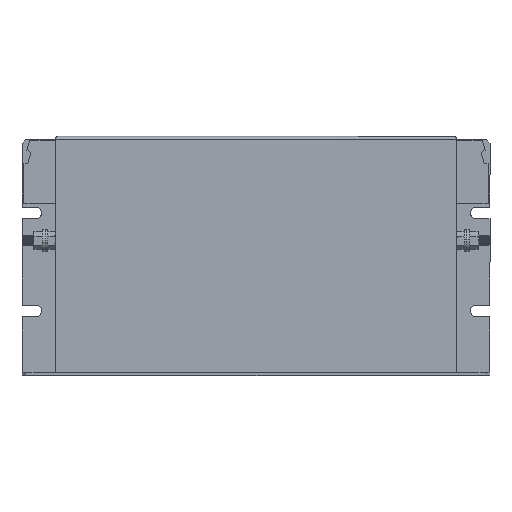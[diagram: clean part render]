
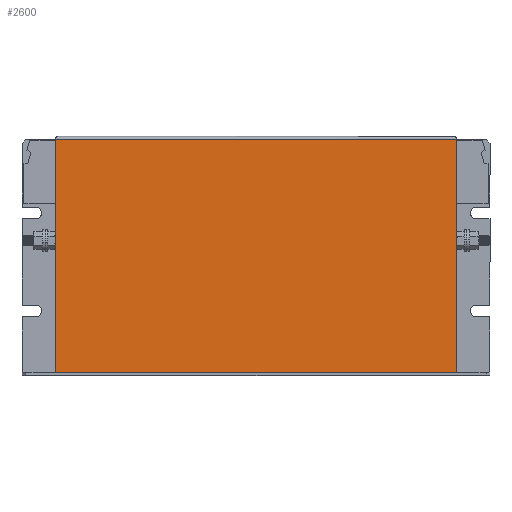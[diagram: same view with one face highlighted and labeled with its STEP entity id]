
A CAD part, top view. The second image highlights one B-rep face of the part: STEP entity #2600.
In plain terms, the highlighted planar face has unit normal (0, 0, 1).
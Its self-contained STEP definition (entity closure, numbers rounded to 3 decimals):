
#2498 = EDGE_LOOP ( 'NONE', ( #3674, #3661, #3684, #3685 ) ) ;
#2600 = ADVANCED_FACE ( 'NONE', ( #6562 ), #6557, .F. ) ;
#3661 = ORIENTED_EDGE ( 'NONE', *, *, #3681, .T. ) ;
#3671 = EDGE_CURVE ( 'NONE', #3675, #4603, #6994, .T. ) ;
#3674 = ORIENTED_EDGE ( 'NONE', *, *, #3671, .F. ) ;
#3675 = VERTEX_POINT ( 'NONE', #7041 ) ;
#3681 = EDGE_CURVE ( 'NONE', #3675, #4683, #7035, .T. ) ;
#3684 = ORIENTED_EDGE ( 'NONE', *, *, #4682, .T. ) ;
#3685 = ORIENTED_EDGE ( 'NONE', *, *, #4585, .T. ) ;
#4585 = EDGE_CURVE ( 'NONE', #4591, #4603, #8536, .T. ) ;
#4591 = VERTEX_POINT ( 'NONE', #8580 ) ;
#4603 = VERTEX_POINT ( 'NONE', #8558 ) ;
#4682 = EDGE_CURVE ( 'NONE', #4683, #4591, #8692, .T. ) ;
#4683 = VERTEX_POINT ( 'NONE', #8688 ) ;
#6552 = DIRECTION ( 'NONE',  ( -1., 0., 0. ) ) ;
#6553 = DIRECTION ( 'NONE',  ( 0., 0., -1. ) ) ;
#6554 = AXIS2_PLACEMENT_3D ( 'NONE', #6556, #6553, #6552 ) ;
#6556 = CARTESIAN_POINT ( 'NONE',  ( 17., 122., 1.5 ) ) ;
#6557 = PLANE ( 'NONE',  #6554 ) ;
#6562 = FACE_OUTER_BOUND ( 'NONE', #2498, .T. ) ;
#6993 = CARTESIAN_POINT ( 'NONE',  ( 222., 122., 1.5 ) ) ;
#6994 = LINE ( 'NONE', #6993, #7043 ) ;
#7027 = DIRECTION ( 'NONE',  ( -1., 0., 0. ) ) ;
#7028 = VECTOR ( 'NONE', #7027, 1000. ) ;
#7029 = CARTESIAN_POINT ( 'NONE',  ( 17., 120.5, 1.5 ) ) ;
#7035 = LINE ( 'NONE', #7029, #7028 ) ;
#7041 = CARTESIAN_POINT ( 'NONE',  ( 222., 120.5, 1.5 ) ) ;
#7042 = DIRECTION ( 'NONE',  ( 0., -1., 0. ) ) ;
#7043 = VECTOR ( 'NONE', #7042, 1000. ) ;
#8533 = DIRECTION ( 'NONE',  ( 1., 0., 0. ) ) ;
#8534 = VECTOR ( 'NONE', #8533, 1000. ) ;
#8535 = CARTESIAN_POINT ( 'NONE',  ( 17., 1.5, 1.5 ) ) ;
#8536 = LINE ( 'NONE', #8535, #8534 ) ;
#8558 = CARTESIAN_POINT ( 'NONE',  ( 222., 1.5, 1.5 ) ) ;
#8580 = CARTESIAN_POINT ( 'NONE',  ( 17., 1.5, 1.5 ) ) ;
#8688 = CARTESIAN_POINT ( 'NONE',  ( 17., 120.5, 1.5 ) ) ;
#8689 = DIRECTION ( 'NONE',  ( 0., -1., 0. ) ) ;
#8690 = VECTOR ( 'NONE', #8689, 1000. ) ;
#8691 = CARTESIAN_POINT ( 'NONE',  ( 17., 122., 1.5 ) ) ;
#8692 = LINE ( 'NONE', #8691, #8690 ) ;
